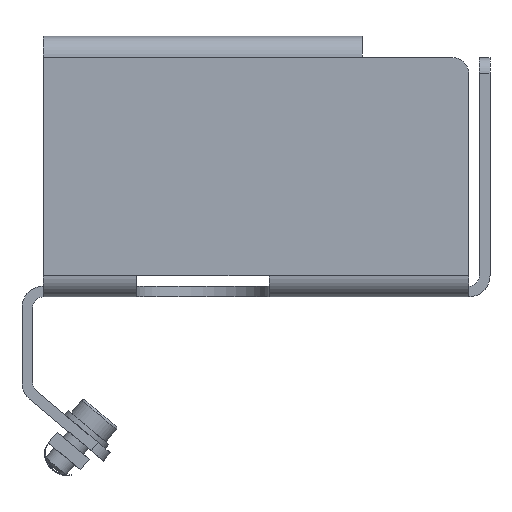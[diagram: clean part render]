
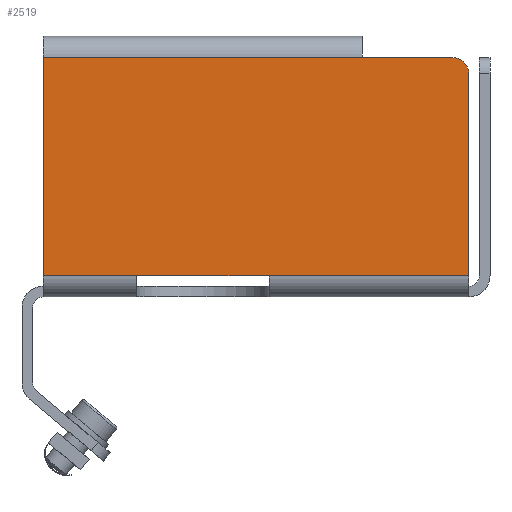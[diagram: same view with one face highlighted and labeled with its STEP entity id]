
A CAD part, left-side view. The second image highlights one B-rep face of the part: STEP entity #2519.
In plain terms, the highlighted planar face has unit normal (-1, 0, 0).
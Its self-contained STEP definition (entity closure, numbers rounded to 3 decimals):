
#260=DIRECTION('',(0.,0.,1.));
#261=VECTOR('',#260,38.);
#262=CARTESIAN_POINT('',(-37.,0.,2.));
#263=LINE('',#262,#261);
#531=CARTESIAN_POINT('',(-37.,3.,40.));
#532=DIRECTION('',(-1.,0.,0.));
#533=DIRECTION('',(0.,-1.,0.));
#534=AXIS2_PLACEMENT_3D('',#531,#532,#533);
#539=DIRECTION('',(0.,-1.,0.));
#540=VECTOR('',#539,37.5);
#541=CARTESIAN_POINT('',(-37.,37.5,2.));
#542=LINE('',#541,#540);
#546=DIRECTION('',(0.,1.,0.));
#547=VECTOR('',#546,25.);
#548=CARTESIAN_POINT('',(-37.,37.5,2.));
#549=LINE('',#548,#547);
#553=DIRECTION('',(0.,-1.,0.));
#554=VECTOR('',#553,17.5);
#555=CARTESIAN_POINT('',(-37.,80.,2.));
#556=LINE('',#555,#554);
#560=DIRECTION('',(0.,-1.,0.));
#561=VECTOR('',#560,60.);
#562=CARTESIAN_POINT('',(-37.,80.,43.));
#563=LINE('',#562,#561);
#567=DIRECTION('',(0.,1.,0.));
#568=VECTOR('',#567,17.);
#569=CARTESIAN_POINT('',(-37.,3.,43.));
#570=LINE('',#569,#568);
#1307=DIRECTION('',(0.,0.,1.));
#1308=VECTOR('',#1307,41.);
#1309=CARTESIAN_POINT('',(-37.,80.,2.));
#1310=LINE('',#1309,#1308);
#1955=CARTESIAN_POINT('',(-37.,80.,43.));
#1957=VERTEX_POINT('',#1955);
#1959=CARTESIAN_POINT('',(-37.,0.,2.));
#1961=VERTEX_POINT('',#1959);
#1964=CARTESIAN_POINT('',(-37.,80.,2.));
#1966=VERTEX_POINT('',#1964);
#2084=CARTESIAN_POINT('',(-37.,20.,43.));
#2086=VERTEX_POINT('',#2084);
#2131=CARTESIAN_POINT('',(-37.,62.5,2.));
#2132=VERTEX_POINT('',#2131);
#2133=CARTESIAN_POINT('',(-37.,37.5,2.));
#2134=VERTEX_POINT('',#2133);
#2167=CARTESIAN_POINT('',(-37.,0.,40.));
#2168=CARTESIAN_POINT('',(-37.,3.,43.));
#2169=VERTEX_POINT('',#2167);
#2170=VERTEX_POINT('',#2168);
#2498=CARTESIAN_POINT('',(-37.,0.,-2.));
#2499=DIRECTION('',(-1.,0.,0.));
#2500=DIRECTION('',(0.,0.,1.));
#2501=AXIS2_PLACEMENT_3D('',#2498,#2499,#2500);
#2502=PLANE('',#2501);
#2503=ORIENTED_EDGE('',*,*,#2489,.F.);
#2504=ORIENTED_EDGE('',*,*,#2258,.F.);
#2506=ORIENTED_EDGE('',*,*,#2505,.F.);
#2508=ORIENTED_EDGE('',*,*,#2507,.T.);
#2510=ORIENTED_EDGE('',*,*,#2509,.F.);
#2512=ORIENTED_EDGE('',*,*,#2511,.T.);
#2514=ORIENTED_EDGE('',*,*,#2513,.T.);
#2516=ORIENTED_EDGE('',*,*,#2515,.F.);
#2517=EDGE_LOOP('',(#2503,#2504,#2506,#2508,#2510,#2512,#2514,#2516));
#2518=FACE_OUTER_BOUND('',#2517,.F.);
#535=CIRCLE('',#534,3.);
#2258=EDGE_CURVE('',#1961,#2169,#263,.T.);
#2489=EDGE_CURVE('',#2169,#2170,#535,.T.);
#2505=EDGE_CURVE('',#2134,#1961,#542,.T.);
#2507=EDGE_CURVE('',#2134,#2132,#549,.T.);
#2509=EDGE_CURVE('',#1966,#2132,#556,.T.);
#2511=EDGE_CURVE('',#1966,#1957,#1310,.T.);
#2513=EDGE_CURVE('',#1957,#2086,#563,.T.);
#2515=EDGE_CURVE('',#2170,#2086,#570,.T.);
#2519=ADVANCED_FACE('',(#2518),#2502,.T.);
